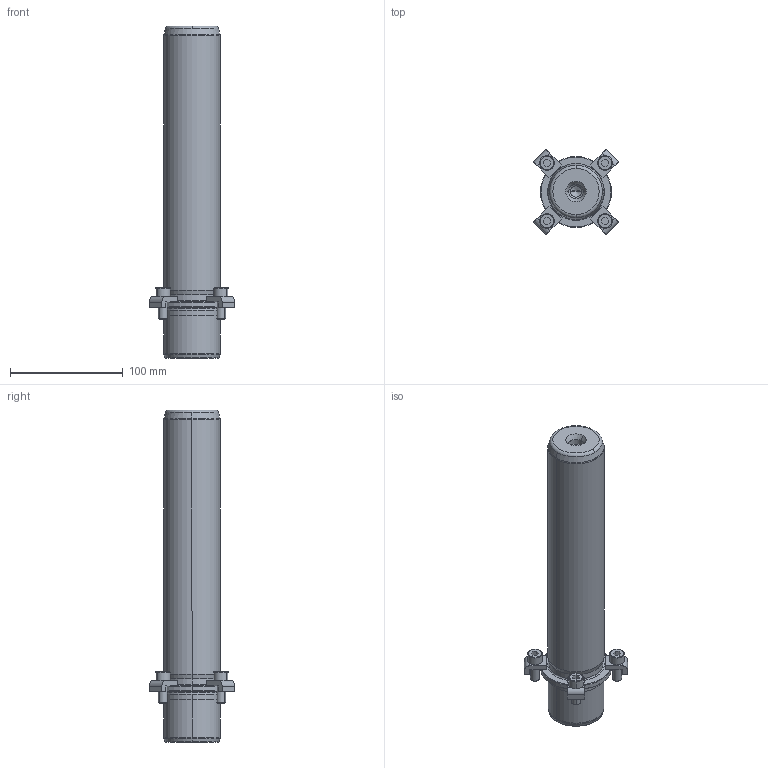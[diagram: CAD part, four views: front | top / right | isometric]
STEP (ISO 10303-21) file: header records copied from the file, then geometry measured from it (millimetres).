
FILE_DESCRIPTION((''),'2;1');
FILE_NAME('P21_050_250.stp','2008-12-23T13:44:31',(''),(''),'Mechanical Desktop 2009','Mechanical Desktop 2009',', , ');
FILE_SCHEMA(('CONFIG_CONTROL_DESIGN'));
Length unit declared in the file: millimetre
Products named in the file (2): Product; blmdl1
Assembly tree (1 placements, depth 2):
  Product
    blmdl1
Bounding box: 76.01 x 76.01 x 295 mm (x, y, z)
Volume: 587400.7 mm3; surface area: 63707.3 mm2
Topology: 9 solids, 9 shells, 195 faces, 477 edges, 309 vertices
Faces by surface type: plane 77, cylinder 52, cone 34, torus 16, bspline 16
Entity records: 6547 total; most frequent: CARTESIAN_POINT 1683, DIRECTION 1078, ORIENTED_EDGE 946, EDGE_CURVE 473, AXIS2_PLACEMENT_3D 424, VERTEX_POINT 309, CIRCLE 243, VECTOR 230
